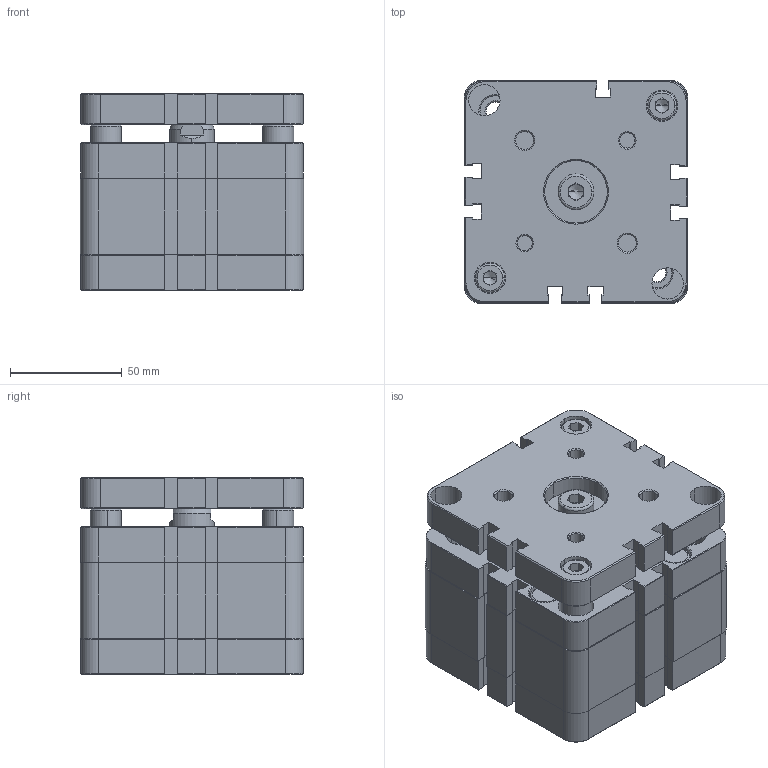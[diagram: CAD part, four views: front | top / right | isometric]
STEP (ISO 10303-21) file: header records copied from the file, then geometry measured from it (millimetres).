
FILE_DESCRIPTION (( 'STEP AP214' ), '1' );
FILE_NAME ('WACC-G-080-0010 (3D).STEP', '2020-10-23T11:25:11', ( '' ), ( '' ), 'SwSTEP 2.0', 'SolidWorks 2016', '' );
FILE_SCHEMA (( 'AUTOMOTIVE_DESIGN' ));
Length unit declared in the file: millimetre
Products named in the file (3): Group2^WACC-G-080-0010 (3D); Group1^WACC-G-080-0010 (3D); WACC-G-080-0010 (3D)
Assembly tree (2 placements, depth 2):
  WACC-G-080-0010 (3D)
    Group1^WACC-G-080-0010 (3D)
    Group2^WACC-G-080-0010 (3D)
Bounding box: 100 x 100 x 88 mm (x, y, z)
Volume: 678842.7 mm3; surface area: 173354.5 mm2
Topology: 18 solids, 18 shells, 1072 faces, 2665 edges, 1687 vertices
Faces by surface type: plane 623, cylinder 172, cone 140, bspline 93, torus 44
Entity records: 39139 total; most frequent: CARTESIAN_POINT 11412, ORIENTED_EDGE 5302, DIRECTION 5025, EDGE_CURVE 2651, LINE 1857, VECTOR 1857, VERTEX_POINT 1687, AXIS2_PLACEMENT_3D 1584
